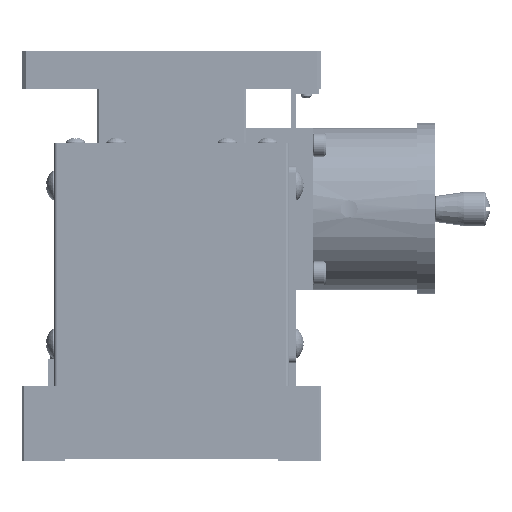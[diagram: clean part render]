
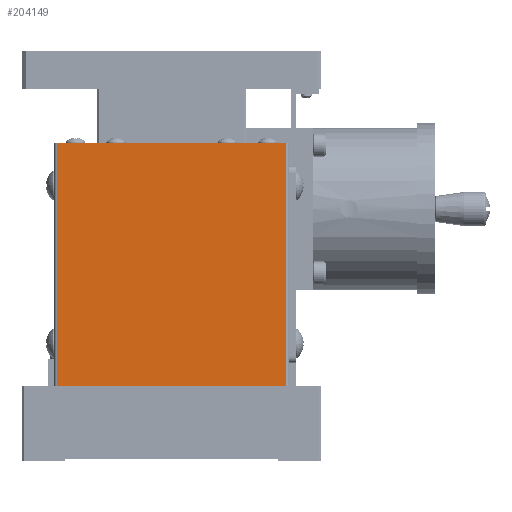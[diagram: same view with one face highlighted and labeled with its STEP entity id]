
A CAD part, left-side view. The second image highlights one B-rep face of the part: STEP entity #204149.
In plain terms, the highlighted planar face has unit normal (-1, 0, 0).
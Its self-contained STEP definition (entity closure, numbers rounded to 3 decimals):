
#2459 = VERTEX_POINT ( 'NONE', #98503 ) ;
#2562 = VERTEX_POINT ( 'NONE', #99245 ) ;
#2612 = VERTEX_POINT ( 'NONE', #99550 ) ;
#2624 = VERTEX_POINT ( 'NONE', #99554 ) ;
#31291 = EDGE_LOOP ( 'NONE', ( #93659, #93661, #93663, #93665 ) ) ;
#68122 = EDGE_CURVE ( 'NONE', #2562, #2459, #169590, .T. ) ;
#68182 = EDGE_CURVE ( 'NONE', #2612, #2562, #170243, .T. ) ;
#68183 = EDGE_CURVE ( 'NONE', #2612, #2624, #170258, .T. ) ;
#68184 = EDGE_CURVE ( 'NONE', #2624, #2459, #170239, .T. ) ;
#93659 = ORIENTED_EDGE ( 'NONE', *, *, #68122, .F. ) ;
#93661 = ORIENTED_EDGE ( 'NONE', *, *, #68182, .F. ) ;
#93663 = ORIENTED_EDGE ( 'NONE', *, *, #68183, .T. ) ;
#93665 = ORIENTED_EDGE ( 'NONE', *, *, #68184, .T. ) ;
#98503 = CARTESIAN_POINT ( 'NONE',  ( -27.5, 26.7, -74.5 ) ) ;
#99245 = CARTESIAN_POINT ( 'NONE',  ( -27.5, -26.7, -74.5 ) ) ;
#99550 = CARTESIAN_POINT ( 'NONE',  ( -27.5, -26.7, -17.5 ) ) ;
#99554 = CARTESIAN_POINT ( 'NONE',  ( -27.5, 26.7, -17.5 ) ) ;
#120930 = AXIS2_PLACEMENT_3D ( 'NONE', #128169, #128187, #128189 ) ;
#128169 = CARTESIAN_POINT ( 'NONE',  ( -27.5, -26.7, -17.5 ) ) ;
#128176 = FACE_OUTER_BOUND ( 'NONE', #31291, .T. ) ;
#128181 = PLANE ( 'NONE',  #120930 ) ;
#128187 = DIRECTION ( 'NONE',  ( -1., 0., 0. ) ) ;
#128189 = DIRECTION ( 'NONE',  ( 0., 1., 0. ) ) ;
#169590 = LINE ( 'NONE', #169595, #171859 ) ;
#169595 = CARTESIAN_POINT ( 'NONE',  ( -27.5, -26.7, -74.5 ) ) ;
#169630 = DIRECTION ( 'NONE',  ( 0., 1., 0. ) ) ;
#170206 = CARTESIAN_POINT ( 'NONE',  ( -27.5, -26.7, -17.5 ) ) ;
#170239 = LINE ( 'NONE', #170268, #172063 ) ;
#170243 = LINE ( 'NONE', #170206, #172055 ) ;
#170255 = DIRECTION ( 'NONE',  ( 0., 0., -1. ) ) ;
#170258 = LINE ( 'NONE', #170263, #172067 ) ;
#170263 = CARTESIAN_POINT ( 'NONE',  ( -27.5, -26.7, -17.5 ) ) ;
#170266 = DIRECTION ( 'NONE',  ( 0., 1., 0. ) ) ;
#170268 = CARTESIAN_POINT ( 'NONE',  ( -27.5, 26.7, -17.5 ) ) ;
#170275 = DIRECTION ( 'NONE',  ( 0., 0., -1. ) ) ;
#171859 = VECTOR ( 'NONE', #169630, 1000. ) ;
#172055 = VECTOR ( 'NONE', #170255, 1000. ) ;
#172063 = VECTOR ( 'NONE', #170275, 1000. ) ;
#172067 = VECTOR ( 'NONE', #170266, 1000. ) ;
#204149 = ADVANCED_FACE ( 'NONE', ( #128176 ), #128181, .T. ) ;
